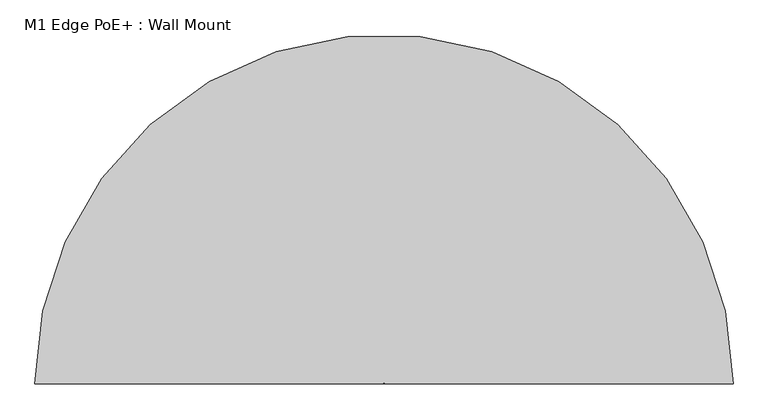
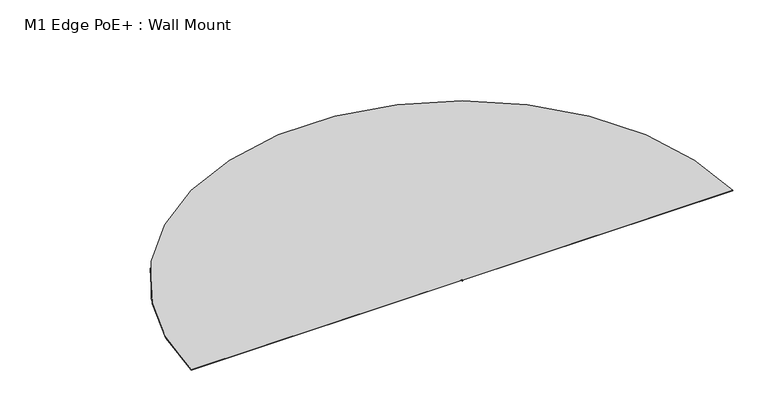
"""IFC4 building model written with IfcOpenShell, lengths in millimetres: proxy geometry, M1 Edge PoE+ : Wall Mount."""

from ifc_helpers import new_model, si_unit, frame, origin, place, context, project, spatial, polyline, circle_curve, outline, extrude, source, transform, mapped, element, save
from ifc_brep_helpers import plane_surface, cylinder_surface, revolved_surface, advanced_brep


def m1_edge_poe_wall_mount_011ba7e5(model_context):
    return source(origin(), model_context, "Body", "SolidModel", [
        advanced_brep(
        [(0.0, 28.675, 3063.03192), (0.0, 117.675, 3063.03192), (0.0, 117.675, 3127.0834825), (0.0, 28.675, 3127.0834825), (0.0, 25.175, 3063.03192), (0.0, 121.175, 3063.03192), (0.0, 25.175, 3053.0108263), (0.0, 121.175, 3053.0108263), (0.0, 15.675, 3053.0108263), (0.0, 130.675, 3053.0108263), (0.0, 15.675, 2992.9834825), (0.0, 130.675, 2992.9834825), (0.0, 73.175, 2992.9834825), (0.0, 73.175, 3127.0834825)],
        [
            (0, 1, circle_curve(frame((0.0, 73.175, 3063.03192), z_axis=(0.0, 0.0, 1.0), x_axis=(0.0, 1.0, 0.0)), 44.5)),
            (1, 2),
            (2, 3, circle_curve(frame((0.0, 73.175, 3127.0834825), z_axis=(0.0, 0.0, -1.0), x_axis=(0.0, 1.0, 0.0)), 44.5)),
            (3, 0),
            (1, 0, circle_curve(frame((0.0, 73.175, 3063.03192), z_axis=(0.0, 0.0, 1.0), x_axis=(0.0, 1.0, 0.0)), 44.5)),
            (3, 2, circle_curve(frame((0.0, 73.175, 3127.0834825), z_axis=(0.0, 0.0, -1.0), x_axis=(0.0, 1.0, 0.0)), 44.5)),
            (4, 5, circle_curve(frame((0.0, 73.175, 3063.03192), z_axis=(0.0, 0.0, 1.0), x_axis=(0.0, 1.0, 0.0)), 48.0)),
            (5, 1),
            (0, 4),
            (5, 4, circle_curve(frame((0.0, 73.175, 3063.03192), z_axis=(0.0, 0.0, 1.0), x_axis=(0.0, 1.0, 0.0)), 48.0)),
            (6, 7, circle_curve(frame((0.0, 73.175, 3053.0108263), z_axis=(0.0, 0.0, 1.0), x_axis=(0.0, 1.0, 0.0)), 48.0)),
            (7, 5),
            (4, 6),
            (7, 6, circle_curve(frame((0.0, 73.175, 3053.0108263), z_axis=(0.0, 0.0, 1.0), x_axis=(0.0, 1.0, 0.0)), 48.0)),
            (8, 9, circle_curve(frame((0.0, 73.175, 3053.0108263), z_axis=(0.0, 0.0, 1.0), x_axis=(0.0, 1.0, 0.0)), 57.5)),
            (9, 7),
            (6, 8),
            (9, 8, circle_curve(frame((0.0, 73.175, 3053.0108263), z_axis=(0.0, 0.0, 1.0), x_axis=(0.0, 1.0, 0.0)), 57.5)),
            (10, 11, circle_curve(frame((0.0, 73.175, 2992.9834825), z_axis=(0.0, 0.0, 1.0), x_axis=(0.0, 1.0, 0.0)), 57.5)),
            (11, 9),
            (8, 10),
            (11, 10, circle_curve(frame((0.0, 73.175, 2992.9834825), z_axis=(0.0, 0.0, 1.0), x_axis=(0.0, 1.0, 0.0)), 57.5)),
            (12, 11),
            (10, 12),
            (2, 13),
            (13, 3),
        ],
        [
            cylinder_surface(frame((0.0, 73.175, 3394.9634398), z_axis=(0.0, 0.0, -1.0), x_axis=(0.0, 1.0, 0.0)), 44.5),
            plane_surface(frame((0.0, 73.175, 3063.03192), z_axis=(0.0, 0.0, 1.0), x_axis=(0.0, 1.0, 0.0))),
            cylinder_surface(frame((0.0, 73.175, 3394.9634398), z_axis=(0.0, 0.0, -1.0), x_axis=(0.0, 1.0, 0.0)), 48.0),
            plane_surface(frame((0.0, 73.175, 3053.0108263), z_axis=(0.0, 0.0, 1.0), x_axis=(0.0, 1.0, 0.0))),
            cylinder_surface(frame((0.0, 73.175, 3394.9634398), z_axis=(0.0, 0.0, -1.0), x_axis=(0.0, 1.0, 0.0)), 57.5),
            plane_surface(frame((0.0, 73.175, 2992.9834825), z_axis=(0.0, 0.0, -1.0), x_axis=(0.0, 1.0, 0.0))),
            plane_surface(frame((0.0, 73.175, 3127.0834825), z_axis=(0.0, 0.0, 1.0), x_axis=(0.0, 1.0, 0.0))),
        ],
        [
            (0, [[1, 2, 3, 4]]),
            (0, [[5, -4, 6, -2]]),
            (1, [[7, 8, -1, 9]]),
            (1, [[10, -9, -5, -8]]),
            (2, [[11, 12, -7, 13]]),
            (2, [[14, -13, -10, -12]]),
            (3, [[15, 16, -11, 17]]),
            (3, [[18, -17, -14, -16]]),
            (4, [[19, 20, -15, 21]]),
            (4, [[22, -21, -18, -20]]),
            (5, [[23, -19, 24]]),
            (5, [[-24, -22, -23]]),
            (6, [[-3, 25, 26]]),
            (6, [[-6, -26, -25]]),
        ],
    ),
        advanced_brep(
        [(-70104.0, 73.175, 3091.60692), (-70104.0, 73.175, 3011.8911911), (-46.2980768, 73.175, 3091.60692), (70104.0, 73.175, 3091.60692), (46.2980768, 73.175, 3091.60692), (70104.0, 73.175, 3011.8911911)],
        [
            (0, 1),
            (1, 2),
            (2, 0),
            (3, 4),
            (4, 5),
            (5, 3),
            (5, 1, circle_curve(frame((0.0, 73.175, 3011.8911911), z_axis=(0.0, 0.0, 1.0), x_axis=(-1.0, 0.0, 0.0)), 70104.0)),
            (0, 3, circle_curve(frame((0.0, 73.175, 3091.60692), z_axis=(0.0, 0.0, -1.0), x_axis=(-1.0, 0.0, 0.0)), 70104.0)),
            (4, 2, circle_curve(frame((0.0, 73.175, 3091.60692), z_axis=(0.0, 0.0, 1.0), x_axis=(-1.0, 0.0, 0.0)), 46.2980768)),
        ],
        [
            plane_surface(frame((0.0, 73.175, 5435.4137144), z_axis=(0.0, -1.0, 0.0), x_axis=(-1.0, 0.0, 0.0))),
            plane_surface(frame((0.0, 73.175, 5435.4137144), z_axis=(0.0, -1.0, 0.0), x_axis=(1.0, 0.0, 0.0))),
            cylinder_surface(frame((0.0, 73.175, 5435.4137144), z_axis=(0.0, 0.0, -1.0), x_axis=(-1.0, 0.0, 0.0)), 70104.0),
            revolved_surface(polyline([(-70104.0, 73.175, 3011.8911911), (-46.2980768, 73.175, 3091.60692)]), (0.0, 73.175, 5435.4137144), (0.0, 0.0, -1.0)),
            plane_surface(frame((0.0, 73.175, 3091.60692), z_axis=(0.0, 0.0, 1.0), x_axis=(-1.0, 0.0, 0.0))),
        ],
        [
            (0, [[1, 2, 3]]),
            (1, [[4, 5, 6]]),
            (2, [[7, -1, 8, -6]]),
            (3, [[9, -2, -7, -5]]),
            (4, [[-8, -3, -9, -4]]),
        ],
    ),
        extrude(outline(polyline([(70.0, 140.0), (70.0, 0.0), (-70.0, 0.0), (-70.0, 140.0), (70.0, 140.0)])), frame((0.0, 0.0, 2989.8084825), z_axis=(0.0, 0.0, 1.0), x_axis=(1.0, 0.0, 0.0)), (0.0, 0.0, 1.0), 3.175),
        extrude(outline(polyline([(47.7242188, 0.0), (47.7242188, -3.175), (-47.7242187, -3.175), (-47.7242187, 0.0), (47.7242188, 0.0)])), frame((0.0, 0.0, 2887.0), z_axis=(0.0, 0.0, 1.0), x_axis=(1.0, 0.0, 0.0)), (0.0, 0.0, 1.0), 161.0),
        extrude(outline(polyline([(2992.9834825, 70.0), (2992.9834825, -70.0), (2977.9259126, -70.0), (2977.9259126, -22.1620361), (2927.1259126, -22.1620361), (2927.1259126, 22.1620361), (2977.9259126, 22.1620361), (2977.9259126, 70.0), (2992.9834825, 70.0)])), frame((0.0, 0.0, 0.0), z_axis=(0.0, 1.0, 0.0), x_axis=(0.0, 0.0, 1.0)), (0.0, 0.0, 1.0), 101.6),
    ])


if __name__ == "__main__":
    model = new_model("IFC4")
    model_context = context("Model", 3, world=origin())
    ifc_project = project(units=[si_unit("LENGTHUNIT", "METRE", prefix="MILLI")], contexts=[model_context])
    site = spatial("IfcSite", under=ifc_project)
    building = spatial("IfcBuilding", under=site)
    placement = place(None, origin())
    m1_edge_poe_wall_mount_shape = m1_edge_poe_wall_mount_011ba7e5(model_context)
    element("IfcBuildingElementProxy", 1, Name="M1 Edge PoE+ : Wall Mount", ObjectType="M1 Edge PoE+ : Wall Mount", at=placement, inside=building, context=model_context, shape_type="MappedRepresentation", body=[
        mapped(m1_edge_poe_wall_mount_shape, transform((0.0, 0.0, 0.0), x_axis=(1.0, 0.0, 0.0), y_axis=(0.0, 1.0, 0.0), z_axis=(0.0, 0.0, 1.0))),
    ])
    save(model, "model.ifc")
